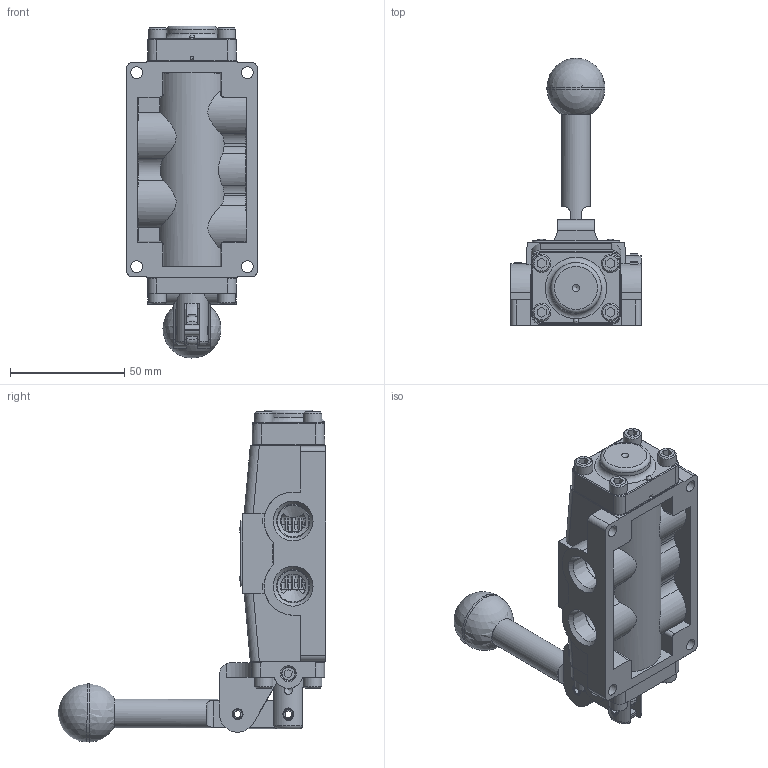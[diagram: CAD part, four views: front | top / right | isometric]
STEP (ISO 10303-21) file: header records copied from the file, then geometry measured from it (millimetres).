
FILE_DESCRIPTION(/* description */ (''),/* implementation_level */ '2;1');
FILE_NAME(/* name */ 'D:\Website Files\stp\Valves\Lever\HD\HD3SS.stp',/* time_stamp */ '2016-07-20T17:14:40-04:00',/* author */ ('RMcKenna'),/* organization */ (''),/* preprocessor_version */ 'ST-DEVELOPER v15.6',/* originating_system */ 'Autodesk Inventor 2015',/* authorisation */ '');
FILE_SCHEMA (('AUTOMOTIVE_DESIGN { 1 0 10303 214 3 1 1 }'));
Length unit declared in the file: centimetre
Products named in the file (1): Part8
Bounding box: 57.15 x 117.12 x 145.39 mm (x, y, z)
Volume: 172099.6 mm3; surface area: 62663.5 mm2
Topology: 3 solids, 29 shells, 1239 faces, 3067 edges, 1974 vertices
Faces by surface type: plane 551, cone 259, cylinder 251, torus 93, bspline 76, sphere 9
Full cylindrical faces by diameter (mm): 2.07 x2, 2.261 x2, 2.381 x1, 2.778 x2, 3.175 x3, 3.683 x8, 4.75 x2, 4.763 x2, 4.826 x8, 4.978 x4, 5.156 x13, 5.41 x2, 7.798 x1, 7.938 x8, 8.153 x1, 9.922 x1, 11.113 x1, 11.303 x2, 12.7 x1, 13.894 x5, 14.275 x1, 14.986 x1, 18.605 x1, 18.618 x1, 18.745 x12, 19.177 x2, 23.825 x7, 25.4 x1
Entity records: 39626 total; most frequent: CARTESIAN_POINT 11379, DIRECTION 5559, ORIENTED_EDGE 5508, EDGE_CURVE 2753, AXIS2_PLACEMENT_3D 2153, VERTEX_POINT 1873, EDGE_LOOP 1595, LINE 1253
